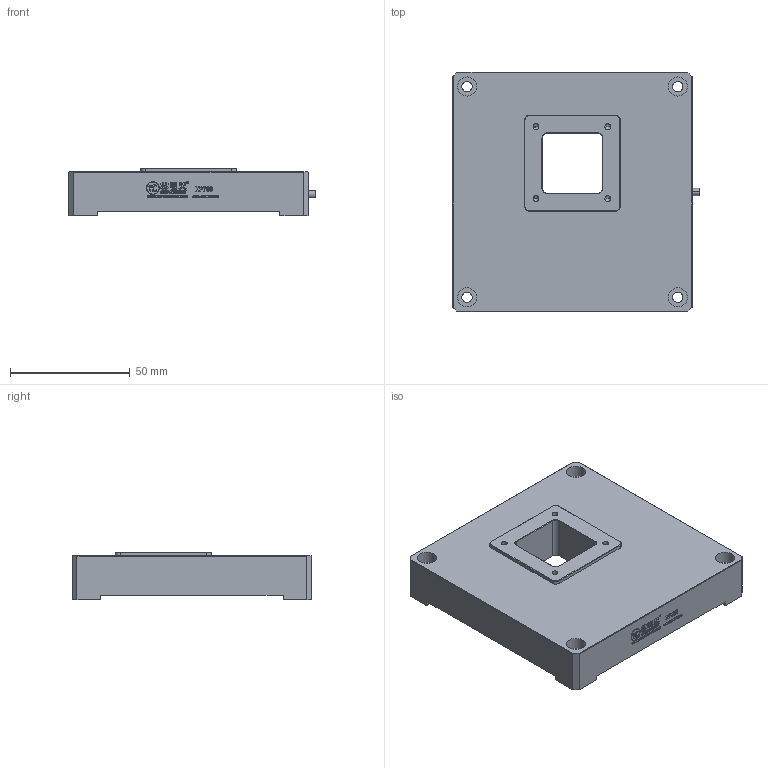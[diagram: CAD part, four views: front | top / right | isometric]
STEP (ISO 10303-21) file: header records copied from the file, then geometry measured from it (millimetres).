
FILE_DESCRIPTION (( 'STEP AP203' ), '1' );
FILE_NAME ('XP-780.X三维图.STEP', '2019-11-29T02:57:11', ( '' ), ( '' ), 'SwSTEP 2.0', 'SolidWorks 2016', '' );
FILE_SCHEMA (( 'CONFIG_CONTROL_DESIGN' ));
Length unit declared in the file: millimetre
Products named in the file (1): XP-780.X三维图
Bounding box: 103 x 100.02 x 20 mm (x, y, z)
Volume: 155267 mm3; surface area: 28897.5 mm2
Topology: 1 solids, 1 shells, 1027 faces, 2752 edges, 1820 vertices
Faces by surface type: plane 546, bspline 412, cylinder 49, cone 20
Entity records: 45225 total; most frequent: CARTESIAN_POINT 22220, ORIENTED_EDGE 5488, DIRECTION 3262, EDGE_CURVE 2744, VERTEX_POINT 1820, VECTOR 1810, LINE 1810, EDGE_LOOP 1138
